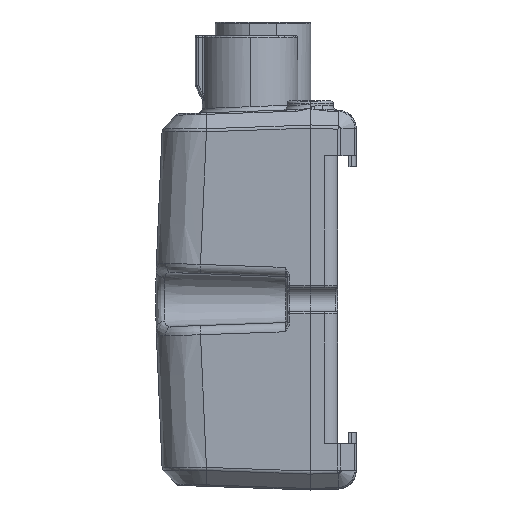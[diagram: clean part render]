
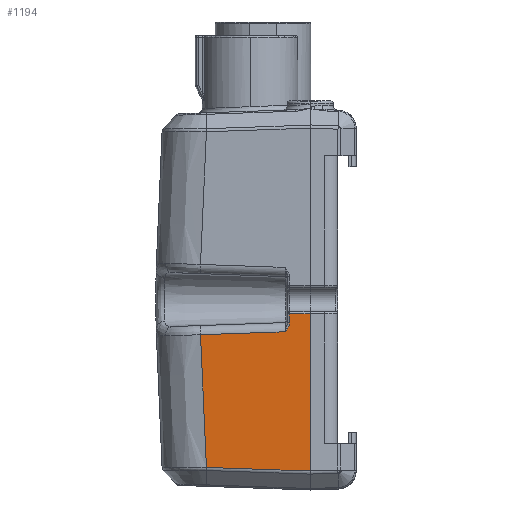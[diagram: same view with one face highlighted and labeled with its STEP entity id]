
A CAD part, left-side view. The second image highlights one B-rep face of the part: STEP entity #1194.
In plain terms, the highlighted planar face has unit normal (-0.999, 0.035, 0).
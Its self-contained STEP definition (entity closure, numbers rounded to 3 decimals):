
#1194 = ADVANCED_FACE ( 'NONE', ( #33543 ), #11170, .T. ) ;
#2896 = CARTESIAN_POINT ( 'NONE',  ( -93.927, 5.198, -17.16 ) ) ;
#2898 = CARTESIAN_POINT ( 'NONE',  ( -94.605, -14.208, -14.542 ) ) ;
#2899 = CARTESIAN_POINT ( 'NONE',  ( -93.932, 5.047, -26.81 ) ) ;
#2900 = CARTESIAN_POINT ( 'NONE',  ( -93.947, 4.611, -36.452 ) ) ;
#2901 = CARTESIAN_POINT ( 'NONE',  ( -93.973, 3.89, -46.077 ) ) ;
#2903 = CARTESIAN_POINT ( 'NONE',  ( -94.605, -14.208, -14.92 ) ) ;
#2904 = CARTESIAN_POINT ( 'NONE',  ( -94.6, -14.077, -15.282 ) ) ;
#2905 = CARTESIAN_POINT ( 'NONE',  ( -94.587, -13.714, -15.931 ) ) ;
#2906 = CARTESIAN_POINT ( 'NONE',  ( -94.579, -13.478, -16.227 ) ) ;
#2907 = CARTESIAN_POINT ( 'NONE',  ( -94.571, -13.242, -16.516 ) ) ;
#2908 = CARTESIAN_POINT ( 'NONE',  ( -93.928, 5.155, -17.158 ) ) ;
#2909 = DIRECTION ( 'NONE',  ( 0.035, 0.999, -0.035 ) ) ;
#2916 = CARTESIAN_POINT ( 'NONE',  ( -94.605, -14.208, 32. ) ) ;
#2917 = DIRECTION ( 'NONE',  ( 0., 0., -1. ) ) ;
#7150 =( BOUNDED_CURVE ( )  B_SPLINE_CURVE ( 3, ( #2896, #2899, #2900, #2901 ),
 .UNSPECIFIED., .F., .F. ) 
 B_SPLINE_CURVE_WITH_KNOTS ( ( 4, 4 ),
 ( 3.157, 3.216 ),
 .UNSPECIFIED. ) 
 CURVE ( )  GEOMETRIC_REPRESENTATION_ITEM ( )  RATIONAL_B_SPLINE_CURVE ( ( 1., 1., 1., 1. ) ) 
 REPRESENTATION_ITEM ( '' )  );
#7922 = EDGE_CURVE ( 'NONE', #10493, #10640, #7150, .T. ) ;
#7923 = EDGE_CURVE ( 'NONE', #11029, #10305, #29402, .T. ) ;
#7924 = EDGE_CURVE ( 'NONE', #10305, #10493, #28871, .T. ) ;
#7927 = EDGE_CURVE ( 'NONE', #10479, #11029, #28872, .T. ) ;
#7979 = EDGE_CURVE ( 'NONE', #10909, #10479, #28931, .T. ) ;
#7980 = EDGE_CURVE ( 'NONE', #10640, #10569, #28933, .T. ) ;
#7983 = EDGE_CURVE ( 'NONE', #10569, #10909, #28938, .T. ) ;
#10305 = VERTEX_POINT ( 'NONE', #13987 ) ;
#10479 = VERTEX_POINT ( 'NONE', #14263 ) ;
#10493 = VERTEX_POINT ( 'NONE', #14291 ) ;
#10569 = VERTEX_POINT ( 'NONE', #14441 ) ;
#10640 = VERTEX_POINT ( 'NONE', #14582 ) ;
#10909 = VERTEX_POINT ( 'NONE', #15116 ) ;
#11029 = VERTEX_POINT ( 'NONE', #15356 ) ;
#11163 = CARTESIAN_POINT ( 'NONE',  ( -94.762, -18.725, 32. ) ) ;
#11170 = PLANE ( 'NONE',  #16751 ) ;
#11177 = DIRECTION ( 'NONE',  ( -0.999, 0.035, 0. ) ) ;
#11179 = DIRECTION ( 'NONE',  ( -0.035, -0.999, 0. ) ) ;
#13429 = CARTESIAN_POINT ( 'NONE',  ( -94.762, -18.725, -12.6 ) ) ;
#13430 = DIRECTION ( 'NONE',  ( 0.035, 0.999, 0. ) ) ;
#13431 = CARTESIAN_POINT ( 'NONE',  ( -93.974, 3.848, -46.076 ) ) ;
#13432 = DIRECTION ( 'NONE',  ( -0.035, -0.999, -0.035 ) ) ;
#13439 = CARTESIAN_POINT ( 'NONE',  ( -94.762, -18.725, 32. ) ) ;
#13440 = DIRECTION ( 'NONE',  ( 0., 0., 1. ) ) ;
#13644 = ORIENTED_EDGE ( 'NONE', *, *, #7980, .T. ) ;
#13646 = ORIENTED_EDGE ( 'NONE', *, *, #7922, .T. ) ;
#13648 = ORIENTED_EDGE ( 'NONE', *, *, #7924, .T. ) ;
#13650 = ORIENTED_EDGE ( 'NONE', *, *, #7923, .T. ) ;
#13651 = ORIENTED_EDGE ( 'NONE', *, *, #7927, .T. ) ;
#13654 = ORIENTED_EDGE ( 'NONE', *, *, #7979, .T. ) ;
#13656 = ORIENTED_EDGE ( 'NONE', *, *, #7983, .T. ) ;
#13987 = CARTESIAN_POINT ( 'NONE',  ( -94.571, -13.242, -16.516 ) ) ;
#14263 = CARTESIAN_POINT ( 'NONE',  ( -94.605, -14.208, -12.6 ) ) ;
#14291 = CARTESIAN_POINT ( 'NONE',  ( -93.927, 5.198, -17.16 ) ) ;
#14441 = CARTESIAN_POINT ( 'NONE',  ( -94.762, -18.725, -46.865 ) ) ;
#14582 = CARTESIAN_POINT ( 'NONE',  ( -93.973, 3.89, -46.077 ) ) ;
#15116 = CARTESIAN_POINT ( 'NONE',  ( -94.762, -18.725, -12.6 ) ) ;
#15356 = CARTESIAN_POINT ( 'NONE',  ( -94.605, -14.208, -14.542 ) ) ;
#16751 = AXIS2_PLACEMENT_3D ( 'NONE', #11163, #11177, #11179 ) ;
#17216 = EDGE_LOOP ( 'NONE', ( #13656, #13654, #13651, #13650, #13648, #13646, #13644 ) ) ;
#28865 = VECTOR ( 'NONE', #2909, 1000. ) ;
#28866 = VECTOR ( 'NONE', #2917, 1000. ) ;
#28871 = LINE ( 'NONE', #2908, #28865 ) ;
#28872 = LINE ( 'NONE', #2916, #28866 ) ;
#28931 = LINE ( 'NONE', #13429, #28932 ) ;
#28932 = VECTOR ( 'NONE', #13430, 1000. ) ;
#28933 = LINE ( 'NONE', #13431, #28934 ) ;
#28934 = VECTOR ( 'NONE', #13432, 1000. ) ;
#28938 = LINE ( 'NONE', #13439, #28939 ) ;
#28939 = VECTOR ( 'NONE', #13440, 1000. ) ;
#29402 = B_SPLINE_CURVE_WITH_KNOTS ( 'NONE', 3,
 ( #2898, #2903, #2904, #2905, #2906, #2907 ),
 .UNSPECIFIED., .F., .F.,
 ( 4, 2, 4 ),
 ( 0., 0.001, 0.002 ),
 .UNSPECIFIED. ) ;
#33543 = FACE_OUTER_BOUND ( 'NONE', #17216, .T. ) ;
